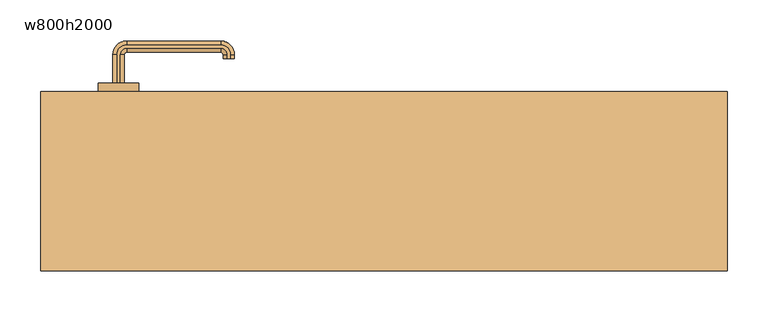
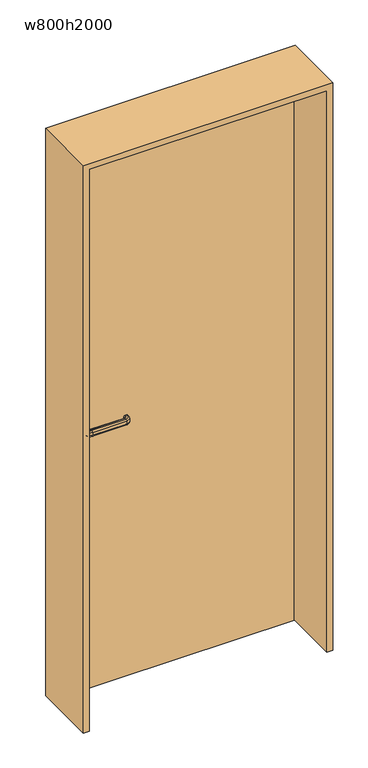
"""IFC4 building model written with IfcOpenShell, lengths in millimetres: door geometry, 片開 : w800h2000."""

from ifc_helpers import new_model, si_unit, point, frame, frame_2d, origin, origin_with_axes, place, context, project, spatial, polyline, circle_curve, ellipse_curve, trimmed, segment, composite_curve, outline, extrude, source, transform, mapped, element, save
from ifc_brep_helpers import plane_surface, cylinder_surface, revolved_surface, advanced_brep


def w800h2000_0ab7d42c(model_context):
    return source(origin(), model_context, "Body", "SolidModel", [
        advanced_brep(
        [(-327.0, 120.0, 960.0), (-332.0, 120.0, 955.0), (-332.0, 120.0, 945.0477623), (-327.0, 120.0, 940.0477623), (-323.0, 120.0, 940.0477623), (-318.0, 120.0, 945.0477623), (-318.0, 120.0, 955.0), (-323.0, 120.0, 960.0), (-327.0, 155.0, 960.0), (-332.0, 155.0, 955.0), (-332.0, 155.0, 945.0477623), (-327.0, 155.0, 940.0477623), (-315.0, 167.0, 940.0477623), (-200.0, 167.0, 940.0477623), (-188.0, 155.0, 940.0477623), (-188.0, 150.0, 940.0477623), (-192.0, 150.0, 940.0477623), (-192.0, 155.0, 940.0477623), (-200.0, 163.0, 940.0477623), (-315.0, 163.0, 940.0477623), (-323.0, 155.0, 940.0477623), (-318.0, 155.0, 945.0477623), (-318.0, 155.0, 955.0), (-323.0, 155.0, 960.0), (-315.0, 163.0, 960.0), (-200.0, 163.0, 960.0), (-192.0, 155.0, 960.0), (-192.0, 150.0, 960.0), (-188.0, 150.0, 960.0), (-188.0, 155.0, 960.0), (-200.0, 167.0, 960.0), (-315.0, 167.0, 960.0), (-315.0, 172.0, 955.0), (-315.0, 172.0, 945.0477623), (-315.0, 158.0, 945.0477623), (-315.0, 158.0, 955.0), (-200.0, 172.0, 955.0), (-200.0, 172.0, 945.0477623), (-200.0, 158.0, 945.0477623), (-200.0, 158.0, 955.0), (-183.0, 155.0, 955.0), (-183.0, 155.0, 945.0477623), (-197.0, 155.0, 945.0477623), (-197.0, 155.0, 955.0), (-197.0, 150.0, 955.0), (-197.0, 150.0, 945.0477623), (-183.0, 150.0, 945.0477623), (-183.0, 150.0, 955.0)],
        [
            (0, 1, circle_curve(frame((-327.0, 120.0, 955.0), z_axis=(0.0, -1.0, 0.0), x_axis=(-1.0, 0.0, 0.0)), 5.0)),
            (1, 2),
            (2, 3, circle_curve(frame((-327.0, 120.0, 945.0477623), z_axis=(0.0, -1.0, 0.0), x_axis=(-1.0, 0.0, 0.0)), 5.0)),
            (3, 4),
            (4, 5, circle_curve(frame((-323.0, 120.0, 945.0477623), z_axis=(0.0, -1.0, 0.0), x_axis=(-1.0, 0.0, 0.0)), 5.0)),
            (5, 6),
            (6, 7, circle_curve(frame((-323.0, 120.0, 955.0), z_axis=(0.0, -1.0, 0.0), x_axis=(-1.0, 0.0, 0.0)), 5.0)),
            (7, 0),
            (0, 8),
            (8, 9, circle_curve(frame((-327.0, 155.0, 955.0), z_axis=(0.0, -1.0, 0.0), x_axis=(-1.0, 0.0, 0.0)), 5.0)),
            (9, 1),
            (9, 10),
            (10, 2),
            (10, 11, circle_curve(frame((-327.0, 155.0, 945.0477623), z_axis=(0.0, -1.0, 0.0), x_axis=(-1.0, 0.0, 0.0)), 5.0)),
            (11, 3),
            (11, 12, circle_curve(frame((-315.0, 155.0, 940.0477623), z_axis=(0.0, 0.0, -1.0), x_axis=(-1.0, 0.0, 0.0)), 12.0)),
            (12, 13),
            (13, 14, circle_curve(frame((-200.0, 155.0, 940.0477623), z_axis=(0.0, 0.0, -1.0), x_axis=(0.0, 1.0, 0.0)), 12.0)),
            (14, 15),
            (15, 16),
            (16, 17),
            (17, 18, circle_curve(frame((-200.0, 155.0, 940.0477623), z_axis=(0.0, 0.0, 1.0), x_axis=(0.0, 1.0, 0.0)), 8.0)),
            (18, 19),
            (19, 20, circle_curve(frame((-315.0, 155.0, 940.0477623), z_axis=(0.0, 0.0, 1.0), x_axis=(-1.0, 0.0, 0.0)), 8.0)),
            (20, 4),
            (20, 21, circle_curve(frame((-323.0, 155.0, 945.0477623), z_axis=(0.0, -1.0, 0.0), x_axis=(-1.0, 0.0, 0.0)), 5.0)),
            (21, 5),
            (21, 22),
            (22, 6),
            (22, 23, circle_curve(frame((-323.0, 155.0, 955.0), z_axis=(0.0, -1.0, 0.0), x_axis=(-1.0, 0.0, 0.0)), 5.0)),
            (23, 7),
            (23, 24, circle_curve(frame((-315.0, 155.0, 960.0), z_axis=(0.0, 0.0, -1.0), x_axis=(-1.0, 0.0, 0.0)), 8.0)),
            (24, 25),
            (25, 26, circle_curve(frame((-200.0, 155.0, 960.0), z_axis=(0.0, 0.0, -1.0), x_axis=(0.0, 1.0, 0.0)), 8.0)),
            (26, 27),
            (27, 28),
            (28, 29),
            (29, 30, circle_curve(frame((-200.0, 155.0, 960.0), z_axis=(0.0, 0.0, 1.0), x_axis=(0.0, 1.0, 0.0)), 12.0)),
            (30, 31),
            (31, 8, circle_curve(frame((-315.0, 155.0, 960.0), z_axis=(0.0, 0.0, 1.0), x_axis=(-1.0, 0.0, 0.0)), 12.0)),
            (32, 9, circle_curve(frame((-315.0, 155.0, 955.0), z_axis=(0.0, 0.0, 1.0), x_axis=(-1.0, 0.0, 0.0)), 17.0)),
            (31, 32, circle_curve(frame((-315.0, 167.0, 955.0), z_axis=(-1.0, 0.0, 0.0), x_axis=(0.0, 1.0, 0.0)), 5.0)),
            (33, 10, circle_curve(frame((-315.0, 155.0, 945.0477623), z_axis=(0.0, 0.0, 1.0), x_axis=(-1.0, 0.0, 0.0)), 17.0)),
            (32, 33),
            (33, 12, circle_curve(frame((-315.0, 167.0, 945.0477623), z_axis=(-1.0, 0.0, 0.0), x_axis=(0.0, 1.0, 0.0)), 5.0)),
            (34, 21, circle_curve(frame((-315.0, 155.0, 945.0477623), z_axis=(0.0, 0.0, 1.0), x_axis=(-1.0, 0.0, 0.0)), 3.0)),
            (19, 34, circle_curve(frame((-315.0, 163.0, 945.0477623), z_axis=(-1.0, 0.0, 0.0), x_axis=(0.0, 1.0, 0.0)), 5.0)),
            (35, 22, circle_curve(frame((-315.0, 155.0, 955.0), z_axis=(0.0, 0.0, 1.0), x_axis=(-1.0, 0.0, 0.0)), 3.0)),
            (34, 35),
            (35, 24, circle_curve(frame((-315.0, 163.0, 955.0), z_axis=(-1.0, 0.0, 0.0), x_axis=(0.0, 1.0, 0.0)), 5.0)),
            (30, 36, circle_curve(frame((-200.0, 167.0, 955.0), z_axis=(-1.0, 0.0, 0.0), x_axis=(0.0, 1.0, 0.0)), 5.0)),
            (36, 32),
            (36, 37),
            (37, 33),
            (37, 13, circle_curve(frame((-200.0, 167.0, 945.0477623), z_axis=(-1.0, 0.0, 0.0), x_axis=(0.0, 1.0, 0.0)), 5.0)),
            (18, 38, circle_curve(frame((-200.0, 163.0, 945.0477623), z_axis=(-1.0, 0.0, 0.0), x_axis=(0.0, 1.0, 0.0)), 5.0)),
            (38, 34),
            (38, 39),
            (39, 35),
            (39, 25, circle_curve(frame((-200.0, 163.0, 955.0), z_axis=(-1.0, 0.0, 0.0), x_axis=(0.0, 1.0, 0.0)), 5.0)),
            (40, 36, circle_curve(frame((-200.0, 155.0, 955.0), z_axis=(0.0, 0.0, 1.0), x_axis=(0.0, 1.0, 0.0)), 17.0)),
            (29, 40, circle_curve(frame((-188.0, 155.0, 955.0), z_axis=(0.0, 1.0, 0.0), x_axis=(1.0, 0.0, 0.0)), 5.0)),
            (41, 37, circle_curve(frame((-200.0, 155.0, 945.0477623), z_axis=(0.0, 0.0, 1.0), x_axis=(0.0, 1.0, 0.0)), 17.0)),
            (40, 41),
            (41, 14, circle_curve(frame((-188.0, 155.0, 945.0477623), z_axis=(0.0, 1.0, 0.0), x_axis=(1.0, 0.0, 0.0)), 5.0)),
            (42, 38, circle_curve(frame((-200.0, 155.0, 945.0477623), z_axis=(0.0, 0.0, 1.0), x_axis=(0.0, 1.0, 0.0)), 3.0)),
            (17, 42, circle_curve(frame((-192.0, 155.0, 945.0477623), z_axis=(0.0, 1.0, 0.0), x_axis=(1.0, 0.0, 0.0)), 5.0)),
            (43, 39, circle_curve(frame((-200.0, 155.0, 955.0), z_axis=(0.0, 0.0, 1.0), x_axis=(0.0, 1.0, 0.0)), 3.0)),
            (42, 43),
            (43, 26, circle_curve(frame((-192.0, 155.0, 955.0), z_axis=(0.0, 1.0, 0.0), x_axis=(1.0, 0.0, 0.0)), 5.0)),
            (27, 44, circle_curve(frame((-192.0, 150.0, 955.0), z_axis=(0.0, -1.0, 0.0), x_axis=(1.0, 0.0, 0.0)), 5.0)),
            (44, 45),
            (45, 16, circle_curve(frame((-192.0, 150.0, 945.0477623), z_axis=(0.0, -1.0, 0.0), x_axis=(1.0, 0.0, 0.0)), 5.0)),
            (15, 46, circle_curve(frame((-188.0, 150.0, 945.0477623), z_axis=(0.0, -1.0, 0.0), x_axis=(1.0, 0.0, 0.0)), 5.0)),
            (46, 47),
            (47, 28, circle_curve(frame((-188.0, 150.0, 955.0), z_axis=(0.0, -1.0, 0.0), x_axis=(1.0, 0.0, 0.0)), 5.0)),
            (47, 40),
            (46, 41),
            (45, 42),
            (44, 43),
        ],
        [
            plane_surface(frame((-335.198039, 120.0, 950.0), z_axis=(0.0, -1.0, 0.0), x_axis=(0.0, 0.0, 1.0))),
            cylinder_surface(frame((-327.0, 120.0, 955.0), z_axis=(0.0, -1.0, 0.0), x_axis=(-1.0, 0.0, 0.0)), 5.0),
            plane_surface(frame((-332.0, 120.0, 955.0), z_axis=(-1.0, 0.0, 0.0), x_axis=(0.0, 1.0, 0.0))),
            cylinder_surface(frame((-327.0, 120.0, 945.0477623), z_axis=(0.0, -1.0, 0.0), x_axis=(-1.0, 0.0, 0.0)), 5.0),
            plane_surface(frame((-327.0, 120.0, 940.0477623), z_axis=(0.0, 0.0, -1.0), x_axis=(0.0, 1.0, 0.0))),
            cylinder_surface(frame((-323.0, 120.0, 945.0477623), z_axis=(0.0, -1.0, 0.0), x_axis=(-1.0, 0.0, 0.0)), 5.0),
            plane_surface(frame((-318.0, 120.0, 945.0477623), z_axis=(1.0, 0.0, 0.0), x_axis=(0.0, 1.0, 0.0))),
            cylinder_surface(frame((-323.0, 120.0, 955.0), z_axis=(0.0, -1.0, 0.0), x_axis=(-1.0, 0.0, 0.0)), 5.0),
            plane_surface(frame((-323.0, 120.0, 960.0), z_axis=(0.0, 0.0, 1.0), x_axis=(0.0, 1.0, 0.0))),
            revolved_surface(trimmed(ellipse_curve(frame((-327.0, 155.0, 955.0), z_axis=(0.0, -1.0, 0.0), x_axis=(-1.0, 0.0, 0.0)), 5.0, 5.0), [point((-327.0, 155.0, 960.0))], [point((-332.0, 155.0, 955.0))], True, "CARTESIAN"), (-315.0, 155.0, 950.0), (0.0, 0.0, -1.0)),
            cylinder_surface(frame((-315.0, 155.0, 950.0), z_axis=(0.0, 0.0, -1.0), x_axis=(-1.0, 0.0, 0.0)), 17.0),
            revolved_surface(trimmed(ellipse_curve(frame((-327.0, 155.0, 945.0477623), z_axis=(0.0, -1.0, 0.0), x_axis=(-1.0, 0.0, 0.0)), 5.0, 5.0), [point((-332.0, 155.0, 945.0477623))], [point((-327.0, 155.0, 940.0477623))], True, "CARTESIAN"), (-315.0, 155.0, 950.0), (0.0, 0.0, -1.0)),
            revolved_surface(trimmed(ellipse_curve(frame((-323.0, 155.0, 945.0477623), z_axis=(0.0, -1.0, 0.0), x_axis=(-1.0, 0.0, 0.0)), 5.0, 5.0), [point((-323.0, 155.0, 940.0477623))], [point((-318.0, 155.0, 945.0477623))], True, "CARTESIAN"), (-315.0, 155.0, 950.0), (0.0, 0.0, -1.0)),
            revolved_surface(polyline([(-318.0, 155.0, 945.0477623), (-318.0, 155.0, 955.0)]), (-315.0, 155.0, 950.0), (0.0, 0.0, -1.0)),
            revolved_surface(trimmed(ellipse_curve(frame((-323.0, 155.0, 955.0), z_axis=(0.0, -1.0, 0.0), x_axis=(-1.0, 0.0, 0.0)), 5.0, 5.0), [point((-318.0, 155.0, 955.0))], [point((-323.0, 155.0, 960.0))], True, "CARTESIAN"), (-315.0, 155.0, 950.0), (0.0, 0.0, -1.0)),
            cylinder_surface(frame((-315.0, 167.0, 955.0), z_axis=(-1.0, 0.0, 0.0), x_axis=(0.0, 1.0, 0.0)), 5.0),
            plane_surface(frame((-315.0, 172.0, 955.0), z_axis=(0.0, 1.0, 0.0), x_axis=(1.0, 0.0, 0.0))),
            cylinder_surface(frame((-315.0, 167.0, 945.0477623), z_axis=(-1.0, 0.0, 0.0), x_axis=(0.0, 1.0, 0.0)), 5.0),
            cylinder_surface(frame((-315.0, 163.0, 945.0477623), z_axis=(-1.0, 0.0, 0.0), x_axis=(0.0, 1.0, 0.0)), 5.0),
            plane_surface(frame((-315.0, 158.0, 945.0477623), z_axis=(0.0, -1.0, 0.0), x_axis=(1.0, 0.0, 0.0))),
            cylinder_surface(frame((-315.0, 163.0, 955.0), z_axis=(-1.0, 0.0, 0.0), x_axis=(0.0, 1.0, 0.0)), 5.0),
            revolved_surface(trimmed(ellipse_curve(frame((-200.0, 167.0, 955.0), z_axis=(-1.0, 0.0, 0.0), x_axis=(0.0, 1.0, 0.0)), 5.0, 5.0), [point((-200.0, 167.0, 960.0))], [point((-200.0, 172.0, 955.0))], True, "CARTESIAN"), (-200.0, 155.0, 950.0), (0.0, 0.0, -1.0)),
            cylinder_surface(frame((-200.0, 155.0, 950.0), z_axis=(0.0, 0.0, -1.0), x_axis=(0.0, 1.0, 0.0)), 17.0),
            revolved_surface(trimmed(ellipse_curve(frame((-200.0, 167.0, 945.0477623), z_axis=(-1.0, 0.0, 0.0), x_axis=(0.0, 1.0, 0.0)), 5.0, 5.0), [point((-200.0, 172.0, 945.0477623))], [point((-200.0, 167.0, 940.0477623))], True, "CARTESIAN"), (-200.0, 155.0, 950.0), (0.0, 0.0, -1.0)),
            revolved_surface(trimmed(ellipse_curve(frame((-200.0, 163.0, 945.0477623), z_axis=(-1.0, 0.0, 0.0), x_axis=(0.0, 1.0, 0.0)), 5.0, 5.0), [point((-200.0, 163.0, 940.0477623))], [point((-200.0, 158.0, 945.0477623))], True, "CARTESIAN"), (-200.0, 155.0, 950.0), (0.0, 0.0, -1.0)),
            revolved_surface(polyline([(-200.0, 158.0, 945.0477623), (-200.0, 158.0, 955.0)]), (-200.0, 155.0, 950.0), (0.0, 0.0, -1.0)),
            revolved_surface(trimmed(ellipse_curve(frame((-200.0, 163.0, 955.0), z_axis=(-1.0, 0.0, 0.0), x_axis=(0.0, 1.0, 0.0)), 5.0, 5.0), [point((-200.0, 158.0, 955.0))], [point((-200.0, 163.0, 960.0))], True, "CARTESIAN"), (-200.0, 155.0, 950.0), (0.0, 0.0, -1.0)),
            plane_surface(frame((-200.198039, 150.0, 950.0), z_axis=(0.0, -1.0, 0.0), x_axis=(0.0, 0.0, -1.0))),
            cylinder_surface(frame((-188.0, 155.0, 955.0), z_axis=(0.0, 1.0, 0.0), x_axis=(1.0, 0.0, 0.0)), 5.0),
            plane_surface(frame((-183.0, 155.0, 955.0), z_axis=(1.0, 0.0, 0.0), x_axis=(0.0, -1.0, 0.0))),
            cylinder_surface(frame((-188.0, 155.0, 945.0477623), z_axis=(0.0, 1.0, 0.0), x_axis=(1.0, 0.0, 0.0)), 5.0),
            cylinder_surface(frame((-192.0, 155.0, 945.0477623), z_axis=(0.0, 1.0, 0.0), x_axis=(1.0, 0.0, 0.0)), 5.0),
            plane_surface(frame((-197.0, 155.0, 945.0477623), z_axis=(-1.0, 0.0, 0.0), x_axis=(0.0, -1.0, 0.0))),
            cylinder_surface(frame((-192.0, 155.0, 955.0), z_axis=(0.0, 1.0, 0.0), x_axis=(1.0, 0.0, 0.0)), 5.0),
        ],
        [
            (0, [[1, 2, 3, 4, 5, 6, 7, 8]]),
            (1, [[-1, 9, 10, 11]]),
            (2, [[-2, -11, 12, 13]]),
            (3, [[-3, -13, 14, 15]]),
            (4, [[-4, -15, 16, 17, 18, 19, 20, 21, 22, 23, 24, 25]]),
            (5, [[-5, -25, 26, 27]]),
            (6, [[-6, -27, 28, 29]]),
            (7, [[-7, -29, 30, 31]]),
            (8, [[-8, -31, 32, 33, 34, 35, 36, 37, 38, 39, 40, -9]]),
            (9, [[41, -10, -40, 42]]),
            (10, [[43, -12, -41, 44]]),
            (11, [[-16, -14, -43, 45]]),
            (12, [[46, -26, -24, 47]]),
            (13, [[48, -28, -46, 49]]),
            (14, [[-32, -30, -48, 50]]),
            (15, [[-42, -39, 51, 52]]),
            (16, [[-44, -52, 53, 54]]),
            (17, [[-45, -54, 55, -17]]),
            (18, [[-47, -23, 56, 57]]),
            (19, [[-49, -57, 58, 59]]),
            (20, [[-50, -59, 60, -33]]),
            (21, [[61, -51, -38, 62]]),
            (22, [[63, -53, -61, 64]]),
            (23, [[-18, -55, -63, 65]]),
            (24, [[66, -56, -22, 67]]),
            (25, [[68, -58, -66, 69]]),
            (26, [[-34, -60, -68, 70]]),
            (27, [[-36, 71, 72, 73, -20, 74, 75, 76]]),
            (28, [[-62, -37, -76, 77]]),
            (29, [[-64, -77, -75, 78]]),
            (30, [[-65, -78, -74, -19]]),
            (31, [[-67, -21, -73, 79]]),
            (32, [[-69, -79, -72, 80]]),
            (33, [[-70, -80, -71, -35]]),
        ],
    ),
        advanced_brep(
        [(-323.0, 70.0, 940.0), (-327.0, 70.0, 940.0), (-332.0, 70.0, 945.0), (-332.0, 70.0, 955.0), (-327.0, 70.0, 960.0), (-323.0, 70.0, 960.0), (-318.0, 70.0, 955.0), (-318.0, 70.0, 945.0), (-323.0, 35.0, 940.0), (-315.0, 27.0, 940.0), (-200.0, 27.0, 940.0), (-192.0, 35.0, 940.0), (-192.0, 40.0, 940.0), (-188.0, 40.0, 940.0), (-188.0, 35.0, 940.0), (-200.0, 23.0, 940.0), (-315.0, 23.0, 940.0), (-327.0, 35.0, 940.0), (-332.0, 35.0, 945.0), (-332.0, 35.0, 955.0), (-327.0, 35.0, 960.0), (-315.0, 23.0, 960.0), (-200.0, 23.0, 960.0), (-188.0, 35.0, 960.0), (-188.0, 40.0, 960.0), (-192.0, 40.0, 960.0), (-192.0, 35.0, 960.0), (-200.0, 27.0, 960.0), (-315.0, 27.0, 960.0), (-323.0, 35.0, 960.0), (-318.0, 35.0, 955.0), (-318.0, 35.0, 945.0), (-315.0, 18.0, 945.0), (-315.0, 18.0, 955.0), (-315.0, 32.0, 955.0), (-315.0, 32.0, 945.0), (-200.0, 18.0, 945.0), (-200.0, 18.0, 955.0), (-200.0, 32.0, 955.0), (-200.0, 32.0, 945.0), (-183.0, 35.0, 945.0), (-183.0, 35.0, 955.0), (-197.0, 35.0, 955.0), (-197.0, 35.0, 945.0), (-197.0, 40.0, 945.0), (-197.0, 40.0, 955.0), (-183.0, 40.0, 955.0), (-183.0, 40.0, 945.0)],
        [
            (0, 1),
            (1, 2, circle_curve(frame((-327.0, 70.0, 945.0), z_axis=(0.0, 1.0, 0.0), x_axis=(1.0, 0.0, 0.0)), 5.0)),
            (2, 3),
            (3, 4, circle_curve(frame((-327.0, 70.0, 955.0), z_axis=(0.0, 1.0, 0.0), x_axis=(1.0, 0.0, 0.0)), 5.0)),
            (4, 5),
            (5, 6, circle_curve(frame((-323.0, 70.0, 955.0), z_axis=(0.0, 1.0, 0.0), x_axis=(1.0, 0.0, 0.0)), 5.0)),
            (6, 7),
            (7, 0, circle_curve(frame((-323.0, 70.0, 945.0), z_axis=(0.0, 1.0, 0.0), x_axis=(1.0, 0.0, 0.0)), 5.0)),
            (0, 8),
            (8, 9, circle_curve(frame((-315.0, 35.0, 940.0), z_axis=(0.0, 0.0, 1.0), x_axis=(-1.0, 0.0, 0.0)), 8.0)),
            (9, 10),
            (10, 11, circle_curve(frame((-200.0, 35.0, 940.0), z_axis=(0.0, 0.0, 1.0), x_axis=(0.0, -1.0, 0.0)), 8.0)),
            (11, 12),
            (12, 13),
            (13, 14),
            (14, 15, circle_curve(frame((-200.0, 35.0, 940.0), z_axis=(0.0, 0.0, -1.0), x_axis=(0.0, -1.0, 0.0)), 12.0)),
            (15, 16),
            (16, 17, circle_curve(frame((-315.0, 35.0, 940.0), z_axis=(0.0, 0.0, -1.0), x_axis=(-1.0, 0.0, 0.0)), 12.0)),
            (17, 1),
            (17, 18, circle_curve(frame((-327.0, 35.0, 945.0), z_axis=(0.0, 1.0, 0.0), x_axis=(1.0, 0.0, 0.0)), 5.0)),
            (18, 2),
            (18, 19),
            (19, 3),
            (19, 20, circle_curve(frame((-327.0, 35.0, 955.0), z_axis=(0.0, 1.0, 0.0), x_axis=(1.0, 0.0, 0.0)), 5.0)),
            (20, 4),
            (20, 21, circle_curve(frame((-315.0, 35.0, 960.0), z_axis=(0.0, 0.0, 1.0), x_axis=(-1.0, 0.0, 0.0)), 12.0)),
            (21, 22),
            (22, 23, circle_curve(frame((-200.0, 35.0, 960.0), z_axis=(0.0, 0.0, 1.0), x_axis=(0.0, -1.0, 0.0)), 12.0)),
            (23, 24),
            (24, 25),
            (25, 26),
            (26, 27, circle_curve(frame((-200.0, 35.0, 960.0), z_axis=(0.0, 0.0, -1.0), x_axis=(0.0, -1.0, 0.0)), 8.0)),
            (27, 28),
            (28, 29, circle_curve(frame((-315.0, 35.0, 960.0), z_axis=(0.0, 0.0, -1.0), x_axis=(-1.0, 0.0, 0.0)), 8.0)),
            (29, 5),
            (29, 30, circle_curve(frame((-323.0, 35.0, 955.0), z_axis=(0.0, 1.0, 0.0), x_axis=(1.0, 0.0, 0.0)), 5.0)),
            (30, 6),
            (30, 31),
            (31, 7),
            (31, 8, circle_curve(frame((-323.0, 35.0, 945.0), z_axis=(0.0, 1.0, 0.0), x_axis=(1.0, 0.0, 0.0)), 5.0)),
            (32, 18, circle_curve(frame((-315.0, 35.0, 945.0), z_axis=(0.0, 0.0, -1.0), x_axis=(-1.0, 0.0, 0.0)), 17.0)),
            (16, 32, circle_curve(frame((-315.0, 23.0, 945.0), z_axis=(-1.0, 0.0, 0.0), x_axis=(0.0, 1.0, 0.0)), 5.0)),
            (33, 19, circle_curve(frame((-315.0, 35.0, 955.0), z_axis=(0.0, 0.0, -1.0), x_axis=(-1.0, 0.0, 0.0)), 17.0)),
            (32, 33),
            (33, 21, circle_curve(frame((-315.0, 23.0, 955.0), z_axis=(-1.0, 0.0, 0.0), x_axis=(0.0, 1.0, 0.0)), 5.0)),
            (34, 30, circle_curve(frame((-315.0, 35.0, 955.0), z_axis=(0.0, 0.0, -1.0), x_axis=(-1.0, 0.0, 0.0)), 3.0)),
            (28, 34, circle_curve(frame((-315.0, 27.0, 955.0), z_axis=(-1.0, 0.0, 0.0), x_axis=(0.0, 1.0, 0.0)), 5.0)),
            (35, 31, circle_curve(frame((-315.0, 35.0, 945.0), z_axis=(0.0, 0.0, -1.0), x_axis=(-1.0, 0.0, 0.0)), 3.0)),
            (34, 35),
            (35, 9, circle_curve(frame((-315.0, 27.0, 945.0), z_axis=(-1.0, 0.0, 0.0), x_axis=(0.0, 1.0, 0.0)), 5.0)),
            (15, 36, circle_curve(frame((-200.0, 23.0, 945.0), z_axis=(-1.0, 0.0, 0.0), x_axis=(0.0, 1.0, 0.0)), 5.0)),
            (36, 32),
            (36, 37),
            (37, 33),
            (37, 22, circle_curve(frame((-200.0, 23.0, 955.0), z_axis=(-1.0, 0.0, 0.0), x_axis=(0.0, 1.0, 0.0)), 5.0)),
            (27, 38, circle_curve(frame((-200.0, 27.0, 955.0), z_axis=(-1.0, 0.0, 0.0), x_axis=(0.0, 1.0, 0.0)), 5.0)),
            (38, 34),
            (38, 39),
            (39, 35),
            (39, 10, circle_curve(frame((-200.0, 27.0, 945.0), z_axis=(-1.0, 0.0, 0.0), x_axis=(0.0, 1.0, 0.0)), 5.0)),
            (40, 36, circle_curve(frame((-200.0, 35.0, 945.0), z_axis=(0.0, 0.0, -1.0), x_axis=(0.0, -1.0, 0.0)), 17.0)),
            (14, 40, circle_curve(frame((-188.0, 35.0, 945.0), z_axis=(0.0, -1.0, 0.0), x_axis=(-1.0, 0.0, 0.0)), 5.0)),
            (41, 37, circle_curve(frame((-200.0, 35.0, 955.0), z_axis=(0.0, 0.0, -1.0), x_axis=(0.0, -1.0, 0.0)), 17.0)),
            (40, 41),
            (41, 23, circle_curve(frame((-188.0, 35.0, 955.0), z_axis=(0.0, -1.0, 0.0), x_axis=(-1.0, 0.0, 0.0)), 5.0)),
            (42, 38, circle_curve(frame((-200.0, 35.0, 955.0), z_axis=(0.0, 0.0, -1.0), x_axis=(0.0, -1.0, 0.0)), 3.0)),
            (26, 42, circle_curve(frame((-192.0, 35.0, 955.0), z_axis=(0.0, -1.0, 0.0), x_axis=(-1.0, 0.0, 0.0)), 5.0)),
            (43, 39, circle_curve(frame((-200.0, 35.0, 945.0), z_axis=(0.0, 0.0, -1.0), x_axis=(0.0, -1.0, 0.0)), 3.0)),
            (42, 43),
            (43, 11, circle_curve(frame((-192.0, 35.0, 945.0), z_axis=(0.0, -1.0, 0.0), x_axis=(-1.0, 0.0, 0.0)), 5.0)),
            (12, 44, circle_curve(frame((-192.0, 40.0, 945.0), z_axis=(0.0, 1.0, 0.0), x_axis=(-1.0, 0.0, 0.0)), 5.0)),
            (44, 45),
            (45, 25, circle_curve(frame((-192.0, 40.0, 955.0), z_axis=(0.0, 1.0, 0.0), x_axis=(-1.0, 0.0, 0.0)), 5.0)),
            (24, 46, circle_curve(frame((-188.0, 40.0, 955.0), z_axis=(0.0, 1.0, 0.0), x_axis=(-1.0, 0.0, 0.0)), 5.0)),
            (46, 47),
            (47, 13, circle_curve(frame((-188.0, 40.0, 945.0), z_axis=(0.0, 1.0, 0.0), x_axis=(-1.0, 0.0, 0.0)), 5.0)),
            (47, 40),
            (46, 41),
            (45, 42),
            (44, 43),
        ],
        [
            plane_surface(frame((-335.198039, 70.0, 950.0), z_axis=(0.0, 1.0, 0.0), x_axis=(0.0, 0.0, -1.0))),
            plane_surface(frame((-323.0, 70.0, 940.0), z_axis=(0.0, 0.0, -1.0), x_axis=(0.0, -1.0, 0.0))),
            cylinder_surface(frame((-327.0, 70.0, 945.0), z_axis=(0.0, 1.0, 0.0), x_axis=(1.0, 0.0, 0.0)), 5.0),
            plane_surface(frame((-332.0, 70.0, 945.0), z_axis=(-1.0, 0.0, 0.0), x_axis=(0.0, -1.0, 0.0))),
            cylinder_surface(frame((-327.0, 70.0, 955.0), z_axis=(0.0, 1.0, 0.0), x_axis=(1.0, 0.0, 0.0)), 5.0),
            plane_surface(frame((-327.0, 70.0, 960.0), z_axis=(0.0, 0.0, 1.0), x_axis=(0.0, -1.0, 0.0))),
            cylinder_surface(frame((-323.0, 70.0, 955.0), z_axis=(0.0, 1.0, 0.0), x_axis=(1.0, 0.0, 0.0)), 5.0),
            plane_surface(frame((-318.0, 70.0, 955.0), z_axis=(1.0, 0.0, 0.0), x_axis=(0.0, -1.0, 0.0))),
            cylinder_surface(frame((-323.0, 70.0, 945.0), z_axis=(0.0, 1.0, 0.0), x_axis=(1.0, 0.0, 0.0)), 5.0),
            revolved_surface(trimmed(ellipse_curve(frame((-327.0, 35.0, 945.0), z_axis=(0.0, 1.0, 0.0), x_axis=(1.0, 0.0, 0.0)), 5.0, 5.0), [point((-327.0, 35.0, 940.0))], [point((-332.0, 35.0, 945.0))], True, "CARTESIAN"), (-315.0, 35.0, 950.0), (0.0, 0.0, 1.0)),
            cylinder_surface(frame((-315.0, 35.0, 950.0), z_axis=(0.0, 0.0, 1.0), x_axis=(-1.0, 0.0, 0.0)), 17.0),
            revolved_surface(trimmed(ellipse_curve(frame((-327.0, 35.0, 955.0), z_axis=(0.0, 1.0, 0.0), x_axis=(1.0, 0.0, 0.0)), 5.0, 5.0), [point((-332.0, 35.0, 955.0))], [point((-327.0, 35.0, 960.0))], True, "CARTESIAN"), (-315.0, 35.0, 950.0), (0.0, 0.0, 1.0)),
            revolved_surface(trimmed(ellipse_curve(frame((-323.0, 35.0, 955.0), z_axis=(0.0, 1.0, 0.0), x_axis=(1.0, 0.0, 0.0)), 5.0, 5.0), [point((-323.0, 35.0, 960.0))], [point((-318.0, 35.0, 955.0))], True, "CARTESIAN"), (-315.0, 35.0, 950.0), (0.0, 0.0, 1.0)),
            revolved_surface(polyline([(-318.0, 35.0, 955.0), (-318.0, 35.0, 945.0)]), (-315.0, 35.0, 950.0), (0.0, 0.0, 1.0)),
            revolved_surface(trimmed(ellipse_curve(frame((-323.0, 35.0, 945.0), z_axis=(0.0, 1.0, 0.0), x_axis=(1.0, 0.0, 0.0)), 5.0, 5.0), [point((-318.0, 35.0, 945.0))], [point((-323.0, 35.0, 940.0))], True, "CARTESIAN"), (-315.0, 35.0, 950.0), (0.0, 0.0, 1.0)),
            cylinder_surface(frame((-315.0, 23.0, 945.0), z_axis=(-1.0, 0.0, 0.0), x_axis=(0.0, 1.0, 0.0)), 5.0),
            plane_surface(frame((-315.0, 18.0, 945.0), z_axis=(0.0, -1.0, 0.0), x_axis=(1.0, 0.0, 0.0))),
            cylinder_surface(frame((-315.0, 23.0, 955.0), z_axis=(-1.0, 0.0, 0.0), x_axis=(0.0, 1.0, 0.0)), 5.0),
            cylinder_surface(frame((-315.0, 27.0, 955.0), z_axis=(-1.0, 0.0, 0.0), x_axis=(0.0, 1.0, 0.0)), 5.0),
            plane_surface(frame((-315.0, 32.0, 955.0), z_axis=(0.0, 1.0, 0.0), x_axis=(1.0, 0.0, 0.0))),
            cylinder_surface(frame((-315.0, 27.0, 945.0), z_axis=(-1.0, 0.0, 0.0), x_axis=(0.0, 1.0, 0.0)), 5.0),
            revolved_surface(trimmed(ellipse_curve(frame((-200.0, 23.0, 945.0), z_axis=(-1.0, 0.0, 0.0), x_axis=(0.0, 1.0, 0.0)), 5.0, 5.0), [point((-200.0, 23.0, 940.0))], [point((-200.0, 18.0, 945.0))], True, "CARTESIAN"), (-200.0, 35.0, 950.0), (0.0, 0.0, 1.0)),
            cylinder_surface(frame((-200.0, 35.0, 950.0), z_axis=(0.0, 0.0, 1.0), x_axis=(0.0, -1.0, 0.0)), 17.0),
            revolved_surface(trimmed(ellipse_curve(frame((-200.0, 23.0, 955.0), z_axis=(-1.0, 0.0, 0.0), x_axis=(0.0, 1.0, 0.0)), 5.0, 5.0), [point((-200.0, 18.0, 955.0))], [point((-200.0, 23.0, 960.0))], True, "CARTESIAN"), (-200.0, 35.0, 950.0), (0.0, 0.0, 1.0)),
            revolved_surface(trimmed(ellipse_curve(frame((-200.0, 27.0, 955.0), z_axis=(-1.0, 0.0, 0.0), x_axis=(0.0, 1.0, 0.0)), 5.0, 5.0), [point((-200.0, 27.0, 960.0))], [point((-200.0, 32.0, 955.0))], True, "CARTESIAN"), (-200.0, 35.0, 950.0), (0.0, 0.0, 1.0)),
            revolved_surface(polyline([(-200.0, 32.0, 955.0), (-200.0, 32.0, 945.0)]), (-200.0, 35.0, 950.0), (0.0, 0.0, 1.0)),
            revolved_surface(trimmed(ellipse_curve(frame((-200.0, 27.0, 945.0), z_axis=(-1.0, 0.0, 0.0), x_axis=(0.0, 1.0, 0.0)), 5.0, 5.0), [point((-200.0, 32.0, 945.0))], [point((-200.0, 27.0, 940.0))], True, "CARTESIAN"), (-200.0, 35.0, 950.0), (0.0, 0.0, 1.0)),
            plane_surface(frame((-200.198039, 40.0, 950.0), z_axis=(0.0, 1.0, 0.0), x_axis=(0.0, 0.0, 1.0))),
            cylinder_surface(frame((-188.0, 35.0, 945.0), z_axis=(0.0, -1.0, 0.0), x_axis=(-1.0, 0.0, 0.0)), 5.0),
            plane_surface(frame((-183.0, 35.0, 945.0), z_axis=(1.0, 0.0, 0.0), x_axis=(0.0, 1.0, 0.0))),
            cylinder_surface(frame((-188.0, 35.0, 955.0), z_axis=(0.0, -1.0, 0.0), x_axis=(-1.0, 0.0, 0.0)), 5.0),
            cylinder_surface(frame((-192.0, 35.0, 955.0), z_axis=(0.0, -1.0, 0.0), x_axis=(-1.0, 0.0, 0.0)), 5.0),
            plane_surface(frame((-197.0, 35.0, 955.0), z_axis=(-1.0, 0.0, 0.0), x_axis=(0.0, 1.0, 0.0))),
            cylinder_surface(frame((-192.0, 35.0, 945.0), z_axis=(0.0, -1.0, 0.0), x_axis=(-1.0, 0.0, 0.0)), 5.0),
        ],
        [
            (0, [[1, 2, 3, 4, 5, 6, 7, 8]]),
            (1, [[-1, 9, 10, 11, 12, 13, 14, 15, 16, 17, 18, 19]]),
            (2, [[-2, -19, 20, 21]]),
            (3, [[-3, -21, 22, 23]]),
            (4, [[-4, -23, 24, 25]]),
            (5, [[-5, -25, 26, 27, 28, 29, 30, 31, 32, 33, 34, 35]]),
            (6, [[-6, -35, 36, 37]]),
            (7, [[-7, -37, 38, 39]]),
            (8, [[-8, -39, 40, -9]]),
            (9, [[41, -20, -18, 42]]),
            (10, [[43, -22, -41, 44]]),
            (11, [[-26, -24, -43, 45]]),
            (12, [[46, -36, -34, 47]]),
            (13, [[48, -38, -46, 49]]),
            (14, [[-10, -40, -48, 50]]),
            (15, [[-42, -17, 51, 52]]),
            (16, [[-44, -52, 53, 54]]),
            (17, [[-45, -54, 55, -27]]),
            (18, [[-47, -33, 56, 57]]),
            (19, [[-49, -57, 58, 59]]),
            (20, [[-50, -59, 60, -11]]),
            (21, [[61, -51, -16, 62]]),
            (22, [[63, -53, -61, 64]]),
            (23, [[-28, -55, -63, 65]]),
            (24, [[66, -56, -32, 67]]),
            (25, [[68, -58, -66, 69]]),
            (26, [[-12, -60, -68, 70]]),
            (27, [[71, 72, 73, -30, 74, 75, 76, -14]]),
            (28, [[-62, -15, -76, 77]]),
            (29, [[-64, -77, -75, 78]]),
            (30, [[-65, -78, -74, -29]]),
            (31, [[-67, -31, -73, 79]]),
            (32, [[-69, -79, -72, 80]]),
            (33, [[-70, -80, -71, -13]]),
        ],
    ),
        extrude(outline(composite_curve([segment(trimmed(circle_curve(frame_2d((950.0, -325.0)), 25.0), [point((950.0, -350.0))], [point((950.0, -300.0))], False, "CARTESIAN"), True, "CONTINUOUS"), segment(trimmed(circle_curve(frame_2d((950.0, -325.0)), 25.0), [point((950.0, -300.0))], [point((950.0, -350.0))], False, "CARTESIAN"), True, "CONTINUOUS")], self_intersect=False)), frame((0.0, 110.0, 0.0), z_axis=(0.0, 1.0, 0.0), x_axis=(0.0, 0.0, 1.0)), (0.0, 0.0, 1.0), 10.0),
        extrude(outline(composite_curve([segment(trimmed(circle_curve(frame_2d((950.0, -325.0)), 25.0), [point((950.0, -350.0))], [point((950.0, -300.0))], False, "CARTESIAN"), True, "CONTINUOUS"), segment(trimmed(circle_curve(frame_2d((950.0, -325.0)), 25.0), [point((950.0, -300.0))], [point((950.0, -350.0))], False, "CARTESIAN"), True, "CONTINUOUS")], self_intersect=False)), frame((0.0, 70.0, 0.0), z_axis=(0.0, 1.0, 0.0), x_axis=(0.0, 0.0, 1.0)), (0.0, 0.0, 1.0), 10.0),
        extrude(outline(polyline([(2020.0, -420.0), (0.0, -420.0), (0.0, -400.0), (2000.0, -400.0), (2000.0, 400.0), (0.0, 400.0), (0.0, 420.0), (2020.0, 420.0), (2020.0, -420.0)])), frame((0.0, -110.0, 0.0), z_axis=(0.0, 1.0, 0.0), x_axis=(0.0, 0.0, 1.0)), (0.0, 0.0, 1.0), 220.0),
        extrude(outline(polyline([(400.0, 80.0), (-400.0, 80.0), (-400.0, 110.0), (400.0, 110.0), (400.0, 80.0)])), origin_with_axes(), (0.0, 0.0, 1.0), 2000.0),
    ])


if __name__ == "__main__":
    model = new_model("IFC4")
    model_context = context("Model", 3, world=origin())
    ifc_project = project(units=[si_unit("LENGTHUNIT", "METRE", prefix="MILLI")], contexts=[model_context])
    site = spatial("IfcSite", under=ifc_project)
    building = spatial("IfcBuilding", under=site)
    placement = place(None, origin())
    w800h2000_shape = w800h2000_0ab7d42c(model_context)
    element("IfcDoor", 1, ObjectType="片開 : w800h2000", at=placement, inside=building, context=model_context, shape_type="MappedRepresentation", body=[
        mapped(w800h2000_shape, transform((0.0, 0.0, 0.0), x_axis=(1.0, 0.0, 0.0), y_axis=(0.0, 1.0, 0.0), z_axis=(0.0, 0.0, 1.0))),
    ])
    save(model, "model.ifc")
